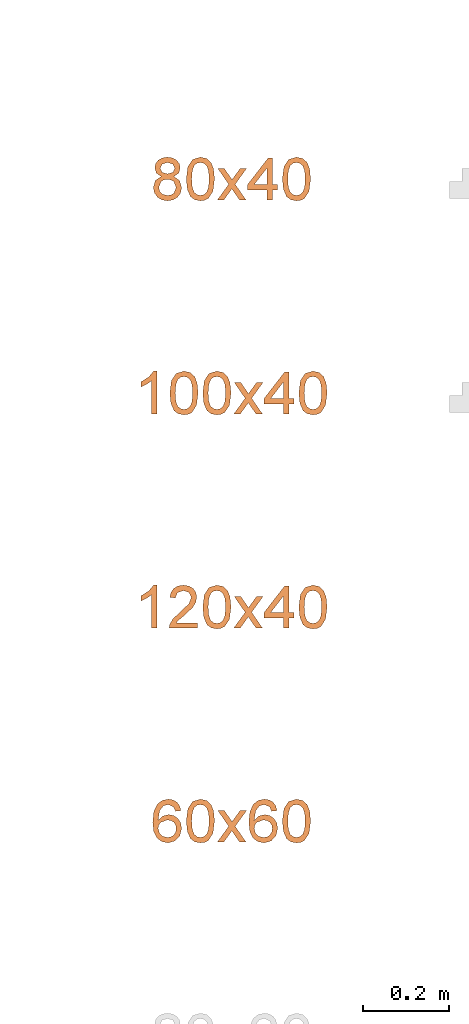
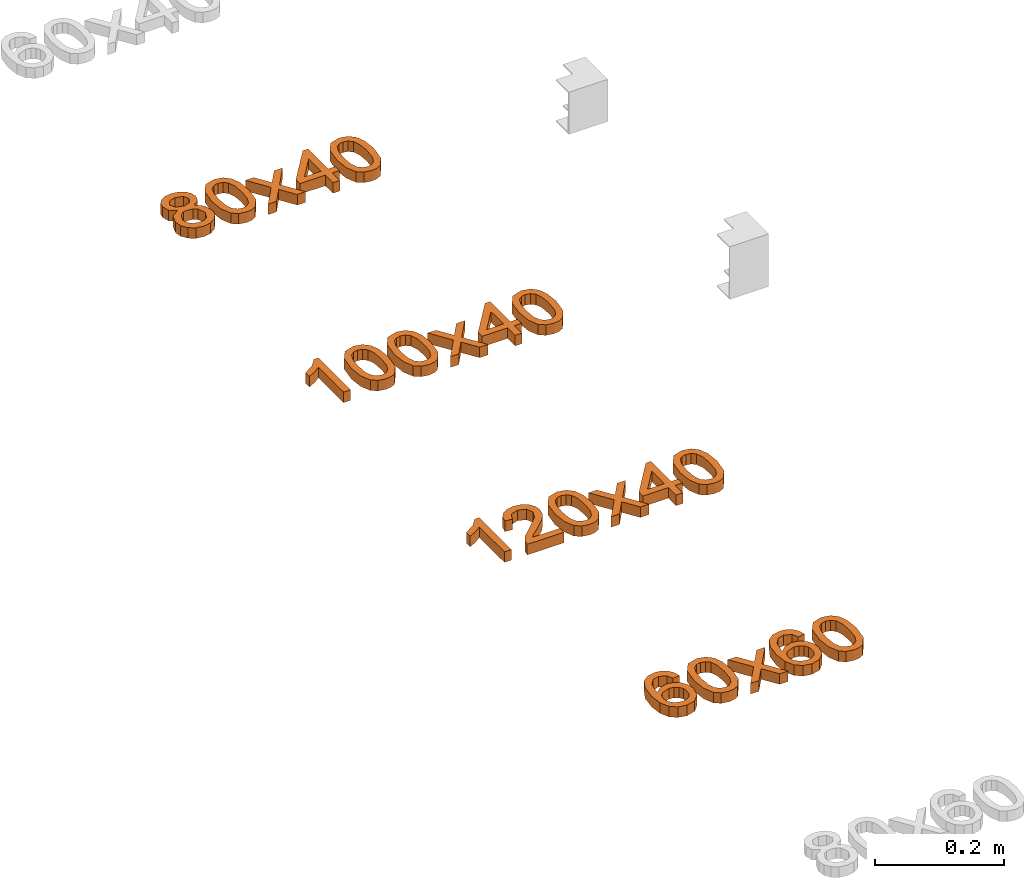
# One storey, part 48 of 71: 4 proxies.
"""IFC2X3 building model written with IfcOpenShell, lengths in millimetres."""

from ifc_helpers import new_model, entity, si_unit, converted_unit, derived_unit, direction, frame, origin, place, context, subcontext, project, spatial, polyline, outline, extrude, element, save


model = new_model("IFC2X3")

# Units and contexts
model_context = context("Model", 3, precision=0.01, world=origin(), true_north=direction((6.12303176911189e-17, 1.0)))
body_context = subcontext(model_context, "Body", "Model", "MODEL_VIEW")
ifc_project = project(units=[si_unit("LENGTHUNIT", "METRE", prefix="MILLI"), si_unit("AREAUNIT", "SQUARE_METRE"), si_unit("VOLUMEUNIT", "CUBIC_METRE"), converted_unit("PLANEANGLEUNIT", "DEGREE", entity("IfcRatioMeasure", 0.0174532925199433), si_unit("PLANEANGLEUNIT", "RADIAN"), dimensions=[0, 0, 0, 0, 0, 0, 0]), si_unit("MASSUNIT", "GRAM", prefix="KILO"), derived_unit("MASSDENSITYUNIT", [(si_unit("MASSUNIT", "GRAM", prefix="KILO"), 1), (si_unit("LENGTHUNIT", "METRE"), -3)]), si_unit("TIMEUNIT", "SECOND"), si_unit("FREQUENCYUNIT", "HERTZ"), si_unit("THERMODYNAMICTEMPERATUREUNIT", "DEGREE_CELSIUS"), derived_unit("THERMALTRANSMITTANCEUNIT", [(si_unit("MASSUNIT", "GRAM", prefix="KILO"), 1), (si_unit("THERMODYNAMICTEMPERATUREUNIT", "KELVIN"), -1), (si_unit("TIMEUNIT", "SECOND"), -3)]), derived_unit("VOLUMETRICFLOWRATEUNIT", [(si_unit("LENGTHUNIT", "METRE"), 3), (si_unit("TIMEUNIT", "SECOND"), -1)]), si_unit("ELECTRICCURRENTUNIT", "AMPERE"), si_unit("ELECTRICVOLTAGEUNIT", "VOLT"), si_unit("POWERUNIT", "WATT"), si_unit("FORCEUNIT", "NEWTON", prefix="KILO"), si_unit("ILLUMINANCEUNIT", "LUX"), si_unit("LUMINOUSFLUXUNIT", "LUMEN"), si_unit("LUMINOUSINTENSITYUNIT", "CANDELA"), derived_unit("USERDEFINED", [(si_unit("MASSUNIT", "GRAM", prefix="KILO"), -1), (si_unit("LENGTHUNIT", "METRE"), -2), (si_unit("TIMEUNIT", "SECOND"), 3), (si_unit("LUMINOUSFLUXUNIT", "LUMEN"), 1)]), derived_unit("LINEARVELOCITYUNIT", [(si_unit("LENGTHUNIT", "METRE"), 1), (si_unit("TIMEUNIT", "SECOND"), -1)]), si_unit("PRESSUREUNIT", "PASCAL"), derived_unit("USERDEFINED", [(si_unit("LENGTHUNIT", "METRE"), -2), (si_unit("MASSUNIT", "GRAM", prefix="KILO"), 1), (si_unit("TIMEUNIT", "SECOND"), -2)])], contexts=[model_context])

# Site, building, storey
site_placement = place(None, origin())
site = spatial("IfcSite", under=ifc_project, at=site_placement, Name="Default", CompositionType="ELEMENT")
building_placement = place(site_placement, origin())
building = spatial("IfcBuilding", under=site, at=building_placement, Name="Наименование здания", CompositionType="ELEMENT")
storey_placement = place(building_placement, origin())
storey = spatial("IfcBuildingStorey", under=building, at=storey_placement, Name="Этаж 01", CompositionType="ELEMENT", Elevation=0.0)

# Proxies
proxy_1_placement = place(storey_placement, origin())
element("IfcBuildingElementProxy", 1, at=proxy_1_placement, inside=storey, Name="Текст модели:100 мм Arial", ObjectType="Текст модели:100 мм Arial", context=body_context, shape_type="SweptSolid", body=[
    extrude(outline(polyline([(10.1224324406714, -11.2212127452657), (26.4477736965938, -11.2212127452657), (39.6861381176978, -0.0909413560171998), (44.6322314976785, 11.3078156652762), (44.5856416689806, 23.4168603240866), (39.6073830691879, 34.8346290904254), (29.7584701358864, 44.1595584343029), (17.4236057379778, 49.7956565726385), (4.98749274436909, 50.1469317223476), (-6.20047708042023, 45.723606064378), (-14.7909119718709, 37.0359017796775), (-20.0781666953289, 21.0056847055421), (-14.5070621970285, 5.37692494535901), (-28.0684052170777, 5.1556370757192), (-37.7221714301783, -2.60845010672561), (-41.5236361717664, -11.9357006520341), (-41.0036870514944, -22.2232653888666), (-36.1916154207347, -32.1870777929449), (-27.1167126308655, -40.543071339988), (-16.0503295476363, -45.8123091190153), (-5.18246445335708, -46.5706787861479), (4.38453303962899, -43.2361071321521), (11.5483133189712, -36.2265209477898), (15.2516244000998, -24.0826582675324), (10.1224324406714, -11.2212127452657)]), holes=[polyline([(1.3407747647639, -28.9039041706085), (-7.53771017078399, -33.9815875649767), (-20.2415350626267, -30.0339976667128), (-28.5905650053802, -19.690281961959), (-26.9800933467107, -9.13787919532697), (-18.1108932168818, -3.87648928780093), (-5.45128168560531, -7.82385811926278), (3.15927028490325, -18.2403048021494), (1.3407747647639, -28.9039041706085)]), polyline([(29.0262968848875, 6.56051660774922), (17.1806533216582, -1.51571690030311), (9.68494123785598, -1.27757268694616), (1.95268767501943, 2.32885586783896), (-4.46267094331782, 8.27886886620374), (-7.64161156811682, 15.3010558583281), (-4.59707955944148, 29.6929468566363), (7.31333657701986, 37.799466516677), (14.8367372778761, 37.4872096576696), (22.6595729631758, 33.8012523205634), (30.3730358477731, 25.586409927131), (32.5711030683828, 15.5727469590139), (29.0262968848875, 6.56051660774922)])]), frame((15091.8607415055, 1588.34577768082, 0.0), z_axis=(0.0, 0.0, 1.0), x_axis=(-0.829266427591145, -0.558853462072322, 0.0)), (0.0, 0.0, 1.0), 20.0),
    extrude(outline(polyline([(-7.02884310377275, -33.3490673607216), (17.5323805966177, -33.3490673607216), (35.1984171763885, -27.6137612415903), (43.3439841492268, -18.4876517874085), (47.051694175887, -5.75150665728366), (46.7162020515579, 4.48638208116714), (43.4465778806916, 13.0955287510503), (27.9444305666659, 25.6659118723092), (-0.314338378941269, 32.2325535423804), (-24.0296505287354, 32.367828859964), (-39.4143020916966, 28.026088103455), (-49.7293680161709, 18.9002174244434), (-54.4436715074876, 4.63998875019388), (-50.8676582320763, -14.1301059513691), (-35.4058547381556, -26.7333390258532), (-7.02884310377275, -33.3490673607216)]), holes=[polyline([(-5.77428774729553, -20.8548320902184), (-25.0157644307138, -17.3562860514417), (-36.7257089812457, -11.5717922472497), (-41.0962588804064, -4.77599682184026), (-41.9669219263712, 3.2146479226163), (-39.2244253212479, 11.2791292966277), (-32.8654063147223, 17.2229259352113), (-20.9698370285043, 20.2947501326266), (-1.61768958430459, 19.7433141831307), (17.8514140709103, 16.2707701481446), (28.7803640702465, 10.7141596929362), (33.5546988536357, 3.61815959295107), (34.5599568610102, -4.47255337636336), (31.9421230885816, -12.1923199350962), (25.8471825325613, -18.1754808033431), (14.0250679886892, -21.4027476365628), (-5.77428774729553, -20.8548320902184)])]), frame((15169.7029366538, 1582.48792113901, 0.0), z_axis=(0.0, 0.0, 1.0), x_axis=(0.1018515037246, -0.994799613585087, 0.0)), (0.0, 0.0, 1.0), 20.0),
    extrude(outline(polyline([(-34.5302215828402, -38.4265006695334), (-19.4225343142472, -38.4265006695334), (-0.341721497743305, -12.0616243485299), (2.478707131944, -16.1328517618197), (17.8561745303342, -38.4265006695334), (32.9638617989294, -38.4265006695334), (7.40832586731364, -1.34399555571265), (33.9448804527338, 35.3461020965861), (18.8371931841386, 35.3461020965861), (4.95577923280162, 16.1671874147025), (0.0261604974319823, 9.34910777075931), (-5.66374769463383, 17.6877663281), (-17.8529044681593, 35.3461020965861), (-32.9605917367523, 35.3461020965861), (-7.69936140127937, -1.34399555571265), (-34.5302215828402, -38.4265006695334)])), frame((15242.5445935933, 1575.09124486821, 0.0)), (0.0, 0.0, 1.0), 20.0),
    extrude(outline(polyline([(-1.14154897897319, -36.3868737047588), (11.4154897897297, -36.3868737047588), (11.4154897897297, -12.8424260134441), (23.9725285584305, -12.8424260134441), (23.9725285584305, -0.285387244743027), (11.4154897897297, -0.285387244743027), (11.4154897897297, 62.499806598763), (1.99771071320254, 62.499806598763), (-46.6608145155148, -0.285387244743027), (-46.6608145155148, -12.8424260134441), (-1.14154897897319, -12.8424260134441), (-1.14154897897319, -36.3868737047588)]), holes=[polyline([(-1.14154897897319, -0.285387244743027), (-31.2097707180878, -0.285387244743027), (-1.14154897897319, 38.5139005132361), (-1.14154897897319, -0.285387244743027)])]), frame((15325.3085295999, 1573.05161790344, 0.0)), (0.0, 0.0, 1.0), 20.0),
    extrude(outline(polyline([(-7.02884310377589, -33.3490673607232), (17.5323805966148, -33.3490673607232), (35.1984171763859, -27.6137612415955), (43.343984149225, -18.4876517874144), (47.0516941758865, -5.75150665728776), (46.7162020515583, 4.48638208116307), (43.4465778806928, 13.0955287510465), (27.9444305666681, 25.6659118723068), (-0.314338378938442, 32.2325535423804), (-24.0296505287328, 32.367828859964), (-39.4143020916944, 28.0260881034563), (-49.7293680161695, 18.9002174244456), (-54.4436715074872, 4.63998875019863), (-50.8676582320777, -14.1301059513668), (-35.405854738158, -26.7333390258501), (-7.02884310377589, -33.3490673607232)]), holes=[polyline([(-5.77428774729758, -20.85483209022), (-25.0157644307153, -17.3562860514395), (-36.7257089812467, -11.5717922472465), (-41.0962588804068, -4.77599682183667), (-41.9669219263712, 3.21464792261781), (-39.2244253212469, 11.2791292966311), (-32.8654063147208, 17.2229259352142), (-20.9698370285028, 20.2947501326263), (-1.61768958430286, 19.7433141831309), (17.8514140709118, 16.270770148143), (28.7803640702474, 10.7141596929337), (33.554698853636, 3.61815959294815), (34.5599568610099, -4.47255337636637), (31.9421230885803, -12.1923199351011), (25.8471825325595, -18.1754808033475), (14.0250679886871, -21.4027476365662), (-5.77428774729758, -20.85483209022)])]), frame((15394.1600046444, 1582.48792113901, 0.0), z_axis=(0.0, 0.0, 1.0), x_axis=(0.101851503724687, -0.994799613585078, 0.0)), (0.0, 0.0, 1.0), 20.0),
])
proxy_2_placement = place(storey_placement, origin())
element("IfcBuildingElementProxy", 2, at=proxy_2_placement, inside=storey, Name="Текст модели:100 мм Arial", ObjectType="Текст модели:100 мм Arial", context=body_context, shape_type="SweptSolid", body=[
    extrude(outline(polyline([(-63.8793021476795, -16.9184842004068), (36.5770080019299, -16.9184842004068), (36.5770080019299, -8.82508030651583), (23.2106288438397, 2.34626961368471), (11.4629304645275, 20.7526321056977), (-0.407395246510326, 20.7526321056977), (5.9324378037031, 7.53340574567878), (14.4059864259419, -4.36144543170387), (-63.8793021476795, -4.36144543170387), (-63.8793021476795, -16.9184842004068)])), frame((15050.6140165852, 1100.54404634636, 0.0), z_axis=(0.0, 0.0, 1.0), x_axis=(0.0, 1.0, 0.0)), (0.0, 0.0, 1.0), 20.0),
    extrude(outline(polyline([(-7.02884310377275, -33.3490673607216), (17.5323805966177, -33.3490673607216), (35.1984171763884, -27.6137612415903), (43.3439841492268, -18.4876517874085), (47.051694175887, -5.75150665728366), (46.7162020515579, 4.48638208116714), (43.4465778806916, 13.0955287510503), (27.944430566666, 25.6659118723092), (-0.314338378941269, 32.2325535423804), (-24.0296505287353, 32.367828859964), (-39.4143020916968, 28.026088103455), (-49.7293680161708, 18.9002174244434), (-54.4436715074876, 4.63998875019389), (-50.8676582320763, -14.1301059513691), (-35.4058547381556, -26.7333390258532), (-7.02884310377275, -33.3490673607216)]), holes=[polyline([(-5.77428774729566, -20.8548320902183), (-25.0157644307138, -17.3562860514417), (-36.7257089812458, -11.5717922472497), (-41.0962588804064, -4.77599682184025), (-41.9669219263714, 3.21464792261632), (-39.224425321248, 11.2791292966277), (-32.8654063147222, 17.2229259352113), (-20.9698370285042, 20.2947501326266), (-1.61768958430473, 19.7433141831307), (17.8514140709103, 16.2707701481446), (28.7803640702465, 10.7141596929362), (33.5546988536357, 3.61815959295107), (34.5599568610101, -4.47255337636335), (31.9421230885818, -12.1923199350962), (25.8471825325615, -18.1754808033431), (14.0250679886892, -21.4027476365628), (-5.77428774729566, -20.8548320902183)])]), frame((15131.2470054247, 1082.48792113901, 0.0), z_axis=(0.0, 0.0, 1.0), x_axis=(0.1018515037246, -0.994799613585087, 0.0)), (0.0, 0.0, 1.0), 20.0),
    extrude(outline(polyline([(-7.02884310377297, -33.3490673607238), (17.5323805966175, -33.3490673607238), (35.1984171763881, -27.6137612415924), (43.3439841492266, -18.4876517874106), (47.0516941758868, -5.75150665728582), (46.7162020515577, 4.48638208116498), (43.4465778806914, 13.0955287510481), (27.9444305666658, 25.665911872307), (-0.31433837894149, 32.2325535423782), (-24.0296505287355, 32.3678288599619), (-39.414302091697, 28.0260881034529), (-49.729368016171, 18.9002174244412), (-54.4436715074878, 4.63998875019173), (-50.8676582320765, -14.1301059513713), (-35.4058547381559, -26.7333390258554), (-7.02884310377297, -33.3490673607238)]), holes=[polyline([(-5.77428774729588, -20.8548320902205), (-25.015764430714, -17.3562860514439), (-36.725708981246, -11.5717922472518), (-41.0962588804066, -4.77599682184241), (-41.9669219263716, 3.21464792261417), (-39.2244253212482, 11.2791292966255), (-32.8654063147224, 17.2229259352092), (-20.9698370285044, 20.2947501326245), (-1.61768958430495, 19.7433141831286), (17.8514140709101, 16.2707701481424), (28.7803640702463, 10.7141596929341), (33.5546988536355, 3.61815959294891), (34.5599568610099, -4.4725533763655), (31.9421230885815, -12.1923199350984), (25.8471825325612, -18.1754808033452), (14.0250679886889, -21.4027476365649), (-5.77428774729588, -20.8548320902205)])]), frame((15208.158867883, 1082.48792113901, 0.0), z_axis=(0.0, 0.0, 1.0), x_axis=(0.1018515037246, -0.994799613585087, 0.0)), (0.0, 0.0, 1.0), 20.0),
    extrude(outline(polyline([(-34.5302215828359, -38.4265006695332), (-19.4225343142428, -38.4265006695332), (-0.341721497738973, -12.0616243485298), (2.47870713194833, -16.1328517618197), (17.8561745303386, -38.4265006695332), (32.9638617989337, -38.4265006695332), (7.40832586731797, -1.34399555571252), (33.9448804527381, 35.3461020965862), (18.837193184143, 35.3461020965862), (4.95577923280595, 16.1671874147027), (0.0261604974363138, 9.34910777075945), (-5.6637476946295, 17.6877663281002), (-17.852904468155, 35.3461020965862), (-32.960591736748, 35.3461020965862), (-7.69936140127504, -1.34399555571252), (-34.5302215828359, -38.4265006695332)])), frame((15281.0005248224, 1075.09124486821, 0.0)), (0.0, 0.0, 1.0), 20.0),
    extrude(outline(polyline([(-1.14154897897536, -36.3868737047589), (11.4154897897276, -36.3868737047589), (11.4154897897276, -12.8424260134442), (23.9725285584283, -12.8424260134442), (23.9725285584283, -0.285387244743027), (11.4154897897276, -0.285387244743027), (11.4154897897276, 62.4998065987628), (1.99771071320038, 62.4998065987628), (-46.660814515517, -0.285387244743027), (-46.660814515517, -12.8424260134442), (-1.14154897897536, -12.8424260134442), (-1.14154897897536, -36.3868737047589)]), holes=[polyline([(-1.14154897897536, -0.285387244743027), (-31.20977071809, -0.285387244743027), (-1.14154897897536, 38.5139005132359), (-1.14154897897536, -0.285387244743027)])]), frame((15363.764460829, 1073.05161790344, 0.0)), (0.0, 0.0, 1.0), 20.0),
    extrude(outline(polyline([(-7.02884310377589, -33.3490673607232), (17.5323805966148, -33.3490673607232), (35.1984171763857, -27.6137612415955), (43.343984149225, -18.4876517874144), (47.0516941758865, -5.75150665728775), (46.7162020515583, 4.48638208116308), (43.4465778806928, 13.0955287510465), (27.9444305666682, 25.6659118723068), (-0.314338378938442, 32.2325535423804), (-24.0296505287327, 32.367828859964), (-39.4143020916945, 28.0260881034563), (-49.7293680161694, 18.9002174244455), (-54.4436715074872, 4.63998875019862), (-50.8676582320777, -14.1301059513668), (-35.405854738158, -26.7333390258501), (-7.02884310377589, -33.3490673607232)]), holes=[polyline([(-5.77428774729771, -20.85483209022), (-25.0157644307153, -17.3562860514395), (-36.7257089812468, -11.5717922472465), (-41.0962588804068, -4.77599682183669), (-41.9669219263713, 3.21464792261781), (-39.224425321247, 11.2791292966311), (-32.8654063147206, 17.2229259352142), (-20.9698370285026, 20.2947501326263), (-1.617689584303, 19.7433141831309), (17.8514140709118, 16.270770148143), (28.7803640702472, 10.7141596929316), (33.554698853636, 3.61815959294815), (34.5599568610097, -4.47255337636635), (31.9421230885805, -12.1923199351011), (25.8471825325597, -18.1754808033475), (14.0250679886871, -21.4027476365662), (-5.77428774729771, -20.85483209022)])]), frame((15432.6159358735, 1082.48792113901, 0.0), z_axis=(0.0, 0.0, 1.0), x_axis=(0.101851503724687, -0.994799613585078, 0.0)), (0.0, 0.0, 1.0), 20.0),
])
proxy_3_placement = place(storey_placement, origin())
element("IfcBuildingElementProxy", 3, at=proxy_3_placement, inside=storey, Name="Текст модели:100 мм Arial", ObjectType="Текст модели:100 мм Arial", context=body_context, shape_type="SweptSolid", body=[
    extrude(outline(polyline([(-63.8793021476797, -16.9184842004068), (36.5770080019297, -16.9184842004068), (36.5770080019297, -8.82508030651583), (23.2106288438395, 2.34626961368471), (11.4629304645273, 20.7526321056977), (-0.407395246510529, 20.7526321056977), (5.9324378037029, 7.53340574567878), (14.4059864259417, -4.36144543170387), (-63.8793021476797, -4.36144543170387), (-63.8793021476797, -16.9184842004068)])), frame((15050.6140165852, 600.544046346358, 0.0), z_axis=(0.0, 0.0, 1.0), x_axis=(0.0, 1.0, 0.0)), (0.0, 0.0, 1.0), 20.0),
    extrude(outline(polyline([(-32.385878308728, -45.1669477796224), (-32.385878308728, -57.7239865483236), (33.5385752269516, -57.7239865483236), (32.1896745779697, -49.0664969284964), (24.5622545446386, -35.736905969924), (8.84143061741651, -21.1810416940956), (-12.8390816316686, -0.260818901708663), (-18.2592096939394, 13.9639515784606), (-13.1456499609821, 25.4786580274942), (0.208466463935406, 30.1752848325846), (14.1266686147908, 25.5890226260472), (19.4119066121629, 12.9093565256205), (31.9689453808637, 14.4789863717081), (28.9247218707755, 26.6252235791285), (22.3426998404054, 35.4973110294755), (12.5662358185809, 40.9235704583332), (-0.0613136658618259, 42.7323236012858), (-12.7808336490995, 40.721235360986), (-22.5389035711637, 34.6879706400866), (-28.746912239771, 25.6748617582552), (-30.8162484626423, 14.7242410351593), (-28.5844310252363, 2.81712712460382), (-21.1654774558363, -9.49465698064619), (-3.17604789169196, -26.6992716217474), (11.2694517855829, -38.7780637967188), (16.9348345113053, -45.1669477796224), (-32.385878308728, -45.1669477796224)])), frame((15129.3244132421, 594.388730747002, 0.0), z_axis=(0.0, 0.0, -1.0), x_axis=(-1.0, 0.0, 0.0)), (0.0, 0.0, -1.0), 20.0),
    extrude(outline(polyline([(-7.02884310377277, -33.3490673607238), (17.5323805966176, -33.3490673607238), (35.1984171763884, -27.6137612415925), (43.3439841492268, -18.4876517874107), (47.051694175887, -5.75150665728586), (46.7162020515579, 4.48638208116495), (43.4465778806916, 13.0955287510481), (27.9444305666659, 25.665911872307), (-0.314338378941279, 32.2325535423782), (-24.0296505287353, 32.3678288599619), (-39.4143020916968, 28.0260881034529), (-49.7293680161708, 18.9002174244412), (-54.4436715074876, 4.63998875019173), (-50.8676582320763, -14.1301059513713), (-35.4058547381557, -26.7333390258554), (-7.02884310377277, -33.3490673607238)]), holes=[polyline([(-5.77428774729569, -20.8548320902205), (-25.0157644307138, -17.3562860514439), (-36.7257089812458, -11.5717922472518), (-41.0962588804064, -4.77599682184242), (-41.9669219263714, 3.21464792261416), (-39.224425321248, 11.2791292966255), (-32.8654063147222, 17.2229259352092), (-20.9698370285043, 20.2947501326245), (-1.61768958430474, 19.7433141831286), (17.8514140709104, 16.2707701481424), (28.7803640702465, 10.7141596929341), (33.5546988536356, 3.61815959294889), (34.5599568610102, -4.47255337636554), (31.9421230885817, -12.1923199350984), (25.8471825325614, -18.1754808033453), (14.0250679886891, -21.402747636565), (-5.77428774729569, -20.8548320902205)])]), frame((15208.158867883, 582.487921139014, 0.0), z_axis=(0.0, 0.0, 1.0), x_axis=(0.1018515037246, -0.994799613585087, 0.0)), (0.0, 0.0, 1.0), 20.0),
    extrude(outline(polyline([(-34.5302215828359, -38.4265006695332), (-19.4225343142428, -38.4265006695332), (-0.341721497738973, -12.0616243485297), (2.47870713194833, -16.1328517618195), (17.8561745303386, -38.4265006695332), (32.9638617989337, -38.4265006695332), (7.40832586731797, -1.34399555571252), (33.9448804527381, 35.3461020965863), (18.837193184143, 35.3461020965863), (4.95577923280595, 16.1671874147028), (0.0261604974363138, 9.34910777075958), (-5.6637476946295, 17.6877663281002), (-17.852904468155, 35.3461020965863), (-32.960591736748, 35.3461020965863), (-7.69936140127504, -1.34399555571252), (-34.5302215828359, -38.4265006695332)])), frame((15281.0005248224, 575.091244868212, 0.0)), (0.0, 0.0, 1.0), 20.0),
    extrude(outline(polyline([(-1.14154897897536, -36.3868737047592), (11.4154897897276, -36.3868737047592), (11.4154897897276, -12.8424260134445), (23.9725285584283, -12.8424260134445), (23.9725285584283, -0.285387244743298), (11.4154897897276, -0.285387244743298), (11.4154897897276, 62.4998065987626), (1.99771071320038, 62.4998065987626), (-46.660814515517, -0.285387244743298), (-46.660814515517, -12.8424260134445), (-1.14154897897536, -12.8424260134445), (-1.14154897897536, -36.3868737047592)]), holes=[polyline([(-1.14154897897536, -0.285387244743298), (-31.20977071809, -0.285387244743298), (-1.14154897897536, 38.5139005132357), (-1.14154897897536, -0.285387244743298)])]), frame((15363.764460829, 573.051617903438, 0.0)), (0.0, 0.0, 1.0), 20.0),
    extrude(outline(polyline([(-7.0288431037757, -33.3490673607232), (17.5323805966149, -33.3490673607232), (35.198417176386, -27.6137612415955), (43.3439841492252, -18.4876517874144), (47.0516941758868, -5.75150665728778), (46.7162020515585, 4.48638208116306), (43.446577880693, 13.0955287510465), (27.9444305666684, 25.6659118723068), (-0.31433837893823, 32.2325535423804), (-24.0296505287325, 32.3678288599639), (-39.4143020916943, 28.0260881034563), (-49.7293680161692, 18.9002174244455), (-54.443671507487, 4.6399887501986), (-50.8676582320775, -14.1301059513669), (-35.4058547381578, -26.7333390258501), (-7.0288431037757, -33.3490673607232)]), holes=[polyline([(-5.77428774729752, -20.85483209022), (-25.0157644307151, -17.3562860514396), (-36.7257089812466, -11.5717922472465), (-41.0962588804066, -4.77599682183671), (-41.9669219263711, 3.21464792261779), (-39.2244253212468, 11.2791292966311), (-32.8654063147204, 17.2229259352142), (-20.9698370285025, 20.2947501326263), (-1.61768958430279, 19.7433141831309), (17.851414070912, 16.270770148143), (28.7803640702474, 10.7141596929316), (33.5546988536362, 3.61815959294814), (34.55995686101, -4.47255337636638), (31.9421230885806, -12.1923199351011), (25.8471825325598, -18.1754808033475), (14.0250679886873, -21.4027476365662), (-5.77428774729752, -20.85483209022)])]), frame((15432.6159358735, 582.487921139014, 0.0), z_axis=(0.0, 0.0, 1.0), x_axis=(0.101851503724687, -0.994799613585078, 0.0)), (0.0, 0.0, 1.0), 20.0),
])
proxy_4_placement = place(storey_placement, origin())
element("IfcBuildingElementProxy", 4, at=proxy_4_placement, inside=storey, Name="Текст модели:100 мм Arial", ObjectType="Текст модели:100 мм Arial", context=body_context, shape_type="SweptSolid", body=[
    extrude(outline(polyline([(6.79275401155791, -32.5027761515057), (18.3659045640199, -32.5027761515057), (28.1525204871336, -28.8011371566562), (35.6312934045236, -21.7178704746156), (40.280914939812, -11.5729874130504), (41.4130789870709, 3.236670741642), (36.1391243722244, 16.3729018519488), (21.8599739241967, 28.8803269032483), (-1.50836821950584, 38.2054593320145), (-23.6059131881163, 41.7609274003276), (-39.9814227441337, 38.5965283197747), (-51.1650797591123, 29.9216784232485), (-57.6870671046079, 16.9457940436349), (-57.9805556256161, -0.0494879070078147), (-49.2081886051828, -14.3141019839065), (-33.616785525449, -22.9350568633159), (-20.6265742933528, -24.2502330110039), (-8.97800352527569, -20.6254922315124), (0.0919027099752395, -13.0350962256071), (5.34612034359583, -2.45330669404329), (5.85483161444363, 11.6447254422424), (-0.843339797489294, 24.991063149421), (19.7707676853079, 15.5765036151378), (28.4840991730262, 4.26766164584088), (28.3893512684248, -7.46374532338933), (19.9956250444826, -18.1936336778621), (8.63303585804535, -19.9825396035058), (6.79275401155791, -32.5027761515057)]), holes=[polyline([(-18.758671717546, 29.9549594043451), (-11.6328110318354, 26.3613362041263), (-6.94154076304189, 20.2038317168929), (-5.85783236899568, 4.13761066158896), (-9.48331864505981, -3.95286412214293), (-15.1077394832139, -9.26901644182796), (-22.3091633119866, -11.5969098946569), (-30.6656585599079, -10.7226080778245), (-38.6094491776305, -7.06141592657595), (-43.8637090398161, -1.22509865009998), (-46.1835287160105, 6.17768396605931), (-45.323998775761, 14.5382721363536), (-39.6901171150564, 24.7221971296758), (-30.0168134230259, 30.0585493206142), (-18.758671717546, 29.9549594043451)])]), frame((15093.7454554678, 95.2124824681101, 0.0), z_axis=(0.0, 0.0, 1.0), x_axis=(-0.267015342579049, 0.963692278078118, 0.0)), (0.0, 0.0, 1.0), 20.0),
    extrude(outline(polyline([(-7.0288431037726, -33.3490673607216), (17.5323805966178, -33.3490673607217), (35.1984171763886, -27.6137612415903), (43.3439841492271, -18.4876517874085), (47.0516941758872, -5.7515066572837), (46.7162020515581, 4.4863820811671), (43.4465778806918, 13.0955287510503), (27.9444305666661, 25.6659118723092), (-0.314338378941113, 32.2325535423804), (-24.0296505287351, 32.367828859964), (-39.4143020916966, 28.026088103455), (-49.7293680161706, 18.9002174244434), (-54.4436715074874, 4.63998875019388), (-50.8676582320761, -14.1301059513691), (-35.4058547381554, -26.7333390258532), (-7.0288431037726, -33.3490673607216)]), holes=[polyline([(-5.77428774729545, -20.8548320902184), (-25.0157644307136, -17.3562860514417), (-36.7257089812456, -11.5717922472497), (-41.0962588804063, -4.77599682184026), (-41.9669219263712, 3.21464792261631), (-39.2244253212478, 11.2791292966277), (-32.865406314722, 17.2229259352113), (-20.9698370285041, 20.2947501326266), (-1.61768958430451, 19.7433141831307), (17.8514140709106, 16.2707701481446), (28.7803640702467, 10.7141596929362), (33.5546988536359, 3.61815959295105), (34.5599568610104, -4.47255337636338), (31.9421230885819, -12.1923199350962), (25.8471825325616, -18.1754808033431), (14.0250679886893, -21.4027476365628), (-5.77428774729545, -20.8548320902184)])]), frame((15169.7029366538, 82.4879211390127, 0.0), z_axis=(0.0, 0.0, 1.0), x_axis=(0.1018515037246, -0.994799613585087, 0.0)), (0.0, 0.0, 1.0), 20.0),
    extrude(outline(polyline([(-34.5302215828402, -38.4265006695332), (-19.4225343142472, -38.4265006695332), (-0.341721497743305, -12.0616243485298), (2.478707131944, -16.1328517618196), (17.8561745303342, -38.4265006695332), (32.9638617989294, -38.4265006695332), (7.40832586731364, -1.34399555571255), (33.9448804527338, 35.3461020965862), (18.8371931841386, 35.3461020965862), (4.95577923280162, 16.1671874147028), (0.0261604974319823, 9.34910777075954), (-5.66374769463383, 17.6877663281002), (-17.8529044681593, 35.3461020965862), (-32.9605917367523, 35.3461020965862), (-7.69936140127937, -1.34399555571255), (-34.5302215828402, -38.4265006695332)])), frame((15242.5445935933, 75.0912448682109, 0.0)), (0.0, 0.0, 1.0), 20.0),
    extrude(outline(polyline([(6.79275401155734, -32.5027761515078), (18.3659045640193, -32.5027761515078), (28.1525204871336, -28.8011371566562), (35.631293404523, -21.7178704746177), (40.280914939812, -11.5729874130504), (41.4130789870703, 3.23667074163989), (36.1391243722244, 16.3729018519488), (21.8599739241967, 28.8803269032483), (-1.50836821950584, 38.2054593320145), (-23.6059131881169, 41.7609274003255), (-39.9814227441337, 38.5965283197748), (-51.1650797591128, 29.9216784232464), (-57.6870671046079, 16.9457940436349), (-57.9805556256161, -0.0494879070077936), (-49.2081886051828, -14.3141019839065), (-33.6167855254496, -22.935056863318), (-20.6265742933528, -24.2502330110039), (-8.97800352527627, -20.6254922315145), (0.0919027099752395, -13.0350962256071), (5.34612034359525, -2.45330669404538), (5.85483161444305, 11.6447254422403), (-0.843339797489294, 24.991063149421), (19.7707676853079, 15.5765036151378), (28.4840991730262, 4.26766164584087), (28.3893512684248, -7.46374532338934), (19.9956250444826, -18.1936336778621), (8.63303585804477, -19.9825396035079), (6.79275401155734, -32.5027761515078)]), holes=[polyline([(-18.758671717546, 29.9549594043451), (-11.632811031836, 26.3613362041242), (-6.94154076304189, 20.2038317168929), (-5.85783236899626, 4.13761066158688), (-9.48331864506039, -3.95286412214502), (-15.1077394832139, -9.26901644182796), (-22.3091633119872, -11.5969098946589), (-30.6656585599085, -10.7226080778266), (-38.6094491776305, -7.06141592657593), (-43.8637090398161, -1.22509865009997), (-46.1835287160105, 6.17768396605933), (-45.323998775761, 14.5382721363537), (-39.690117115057, 24.7221971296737), (-30.0168134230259, 30.0585493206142), (-18.758671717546, 29.9549594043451)])]), frame((15318.2025234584, 95.2124824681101, 0.0), z_axis=(0.0, 0.0, 1.0), x_axis=(-0.267015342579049, 0.963692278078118, 0.0)), (0.0, 0.0, 1.0), 20.0),
    extrude(outline(polyline([(-7.02884310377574, -33.3490673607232), (17.5323805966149, -33.3490673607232), (35.1984171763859, -27.6137612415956), (43.3439841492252, -18.4876517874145), (47.0516941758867, -5.7515066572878), (46.7162020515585, 4.48638208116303), (43.4465778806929, 13.0955287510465), (27.9444305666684, 25.6659118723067), (-0.314338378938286, 32.2325535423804), (-24.0296505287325, 32.367828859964), (-39.4143020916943, 28.0260881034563), (-49.7293680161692, 18.9002174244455), (-54.443671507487, 4.63998875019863), (-50.8676582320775, -14.1301059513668), (-35.4058547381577, -26.7333390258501), (-7.02884310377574, -33.3490673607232)]), holes=[polyline([(-5.7742877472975, -20.85483209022), (-25.0157644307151, -17.3562860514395), (-36.7257089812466, -11.5717922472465), (-41.0962588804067, -4.77599682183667), (-41.9669219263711, 3.21464792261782), (-39.2244253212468, 11.2791292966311), (-32.8654063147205, 17.2229259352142), (-20.9698370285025, 20.2947501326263), (-1.61768958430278, 19.7433141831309), (17.851414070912, 16.270770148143), (28.7803640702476, 10.7141596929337), (33.5546988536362, 3.61815959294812), (34.55995686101, -4.4725533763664), (31.9421230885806, -12.1923199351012), (25.8471825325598, -18.1754808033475), (14.0250679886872, -21.4027476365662), (-5.7742877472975, -20.85483209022)])]), frame((15394.1600046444, 82.4879211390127, 0.0), z_axis=(0.0, 0.0, 1.0), x_axis=(0.101851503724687, -0.994799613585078, 0.0)), (0.0, 0.0, 1.0), 20.0),
])

save(model, "model.ifc")
